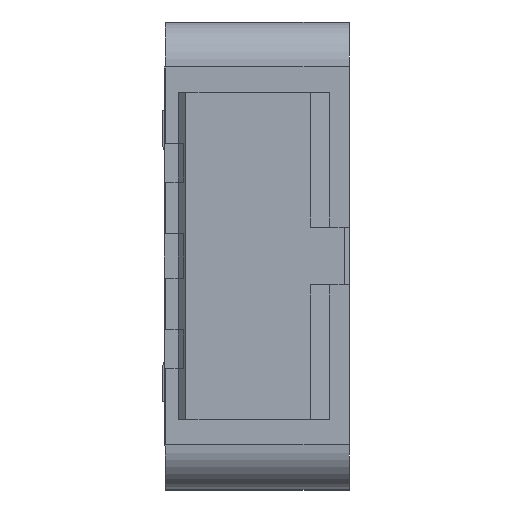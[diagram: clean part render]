
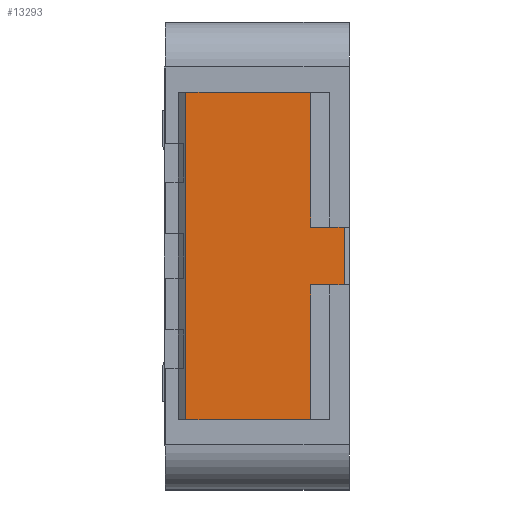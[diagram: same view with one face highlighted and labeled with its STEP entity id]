
A CAD part, left-side view. The second image highlights one B-rep face of the part: STEP entity #13293.
In plain terms, the highlighted planar face has unit normal (-1, 0, 0).
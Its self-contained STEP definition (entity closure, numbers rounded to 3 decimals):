
#187 = ORIENTED_EDGE ( 'NONE', *, *, #6422, .T. ) ;
#260 = CARTESIAN_POINT ( 'NONE',  ( -1.825, 0.09, 1.275 ) ) ;
#487 = PLANE ( 'NONE',  #15786 ) ;
#711 = ORIENTED_EDGE ( 'NONE', *, *, #30231, .F. ) ;
#1041 = EDGE_CURVE ( 'NONE', #12441, #22834, #14757, .T. ) ;
#1226 = VECTOR ( 'NONE', #26660, 1000. ) ;
#1441 = CARTESIAN_POINT ( 'NONE',  ( -1.825, 0.09, 1.275 ) ) ;
#1601 = DIRECTION ( 'NONE',  ( 0., -1., 0. ) ) ;
#1807 = CARTESIAN_POINT ( 'NONE',  ( -1.825, 0.2, 0.225 ) ) ;
#2979 = EDGE_CURVE ( 'NONE', #9953, #20934, #8069, .T. ) ;
#3018 = ORIENTED_EDGE ( 'NONE', *, *, #38116, .T. ) ;
#5444 = VECTOR ( 'NONE', #24380, 1000. ) ;
#5778 = DIRECTION ( 'NONE',  ( 0., -1., 0. ) ) ;
#5787 = CARTESIAN_POINT ( 'NONE',  ( -1.825, 0.35, 0.225 ) ) ;
#5827 = VECTOR ( 'NONE', #15180, 1000. ) ;
#6091 = CARTESIAN_POINT ( 'NONE',  ( -1.825, 0.09, 0.225 ) ) ;
#6320 = DIRECTION ( 'NONE',  ( 1., 0., 0. ) ) ;
#6422 = EDGE_CURVE ( 'NONE', #36009, #20803, #35440, .T. ) ;
#7838 = LINE ( 'NONE', #1807, #11866 ) ;
#8069 = LINE ( 'NONE', #1441, #14295 ) ;
#9953 = VERTEX_POINT ( 'NONE', #6091 ) ;
#10141 = LINE ( 'NONE', #16322, #33883 ) ;
#11866 = VECTOR ( 'NONE', #1601, 1000. ) ;
#12101 = LINE ( 'NONE', #30640, #5444 ) ;
#12441 = VERTEX_POINT ( 'NONE', #5787 ) ;
#12741 = DIRECTION ( 'NONE',  ( 0., 0., -1. ) ) ;
#13293 = ADVANCED_FACE ( 'NONE', ( #18755 ), #487, .F. ) ;
#13724 = ORIENTED_EDGE ( 'NONE', *, *, #39617, .T. ) ;
#14295 = VECTOR ( 'NONE', #26198, 1000. ) ;
#14757 = LINE ( 'NONE', #30723, #5827 ) ;
#15180 = DIRECTION ( 'NONE',  ( 0., 0., 1. ) ) ;
#15786 = AXIS2_PLACEMENT_3D ( 'NONE', #260, #6320, #12741 ) ;
#16322 = CARTESIAN_POINT ( 'NONE',  ( -1.825, 0.2, -0.225 ) ) ;
#17382 = CARTESIAN_POINT ( 'NONE',  ( -1.825, 1.32, 1.275 ) ) ;
#17727 = VECTOR ( 'NONE', #5778, 1000. ) ;
#18755 = FACE_OUTER_BOUND ( 'NONE', #23878, .T. ) ;
#19743 = CARTESIAN_POINT ( 'NONE',  ( -1.825, 0.09, -1.275 ) ) ;
#20803 = VERTEX_POINT ( 'NONE', #29831 ) ;
#20934 = VERTEX_POINT ( 'NONE', #21987 ) ;
#21987 = CARTESIAN_POINT ( 'NONE',  ( -1.825, 0.09, -0.225 ) ) ;
#22834 = VERTEX_POINT ( 'NONE', #26509 ) ;
#23878 = EDGE_LOOP ( 'NONE', ( #187, #32354, #13724, #32752, #711, #32550, #36257, #3018 ) ) ;
#24380 = DIRECTION ( 'NONE',  ( 0., 0., 1. ) ) ;
#25058 = EDGE_CURVE ( 'NONE', #31350, #22834, #27435, .T. ) ;
#25738 = CARTESIAN_POINT ( 'NONE',  ( -1.825, 0.35, -0.225 ) ) ;
#26198 = DIRECTION ( 'NONE',  ( 0., 0., -1. ) ) ;
#26509 = CARTESIAN_POINT ( 'NONE',  ( -1.825, 0.35, 1.275 ) ) ;
#26660 = DIRECTION ( 'NONE',  ( 0., 0., -1. ) ) ;
#27435 = LINE ( 'NONE', #29832, #35040 ) ;
#28646 = DIRECTION ( 'NONE',  ( 0., -1., 0. ) ) ;
#29831 = CARTESIAN_POINT ( 'NONE',  ( -1.825, 0.35, -1.275 ) ) ;
#29832 = CARTESIAN_POINT ( 'NONE',  ( -1.825, 0.09, 1.275 ) ) ;
#29918 = EDGE_CURVE ( 'NONE', #20803, #34498, #12101, .T. ) ;
#30109 = LINE ( 'NONE', #17382, #1226 ) ;
#30231 = EDGE_CURVE ( 'NONE', #12441, #9953, #7838, .T. ) ;
#30640 = CARTESIAN_POINT ( 'NONE',  ( -1.825, 0.35, -0.225 ) ) ;
#30723 = CARTESIAN_POINT ( 'NONE',  ( -1.825, 0.35, 1.275 ) ) ;
#31094 = CARTESIAN_POINT ( 'NONE',  ( -1.825, 1.32, 1.275 ) ) ;
#31350 = VERTEX_POINT ( 'NONE', #31094 ) ;
#32354 = ORIENTED_EDGE ( 'NONE', *, *, #29918, .T. ) ;
#32550 = ORIENTED_EDGE ( 'NONE', *, *, #1041, .T. ) ;
#32752 = ORIENTED_EDGE ( 'NONE', *, *, #2979, .F. ) ;
#33883 = VECTOR ( 'NONE', #28646, 1000. ) ;
#34498 = VERTEX_POINT ( 'NONE', #25738 ) ;
#35040 = VECTOR ( 'NONE', #36087, 1000. ) ;
#35440 = LINE ( 'NONE', #19743, #17727 ) ;
#36009 = VERTEX_POINT ( 'NONE', #38841 ) ;
#36087 = DIRECTION ( 'NONE',  ( 0., -1., 0. ) ) ;
#36257 = ORIENTED_EDGE ( 'NONE', *, *, #25058, .F. ) ;
#38116 = EDGE_CURVE ( 'NONE', #31350, #36009, #30109, .T. ) ;
#38841 = CARTESIAN_POINT ( 'NONE',  ( -1.825, 1.32, -1.275 ) ) ;
#39617 = EDGE_CURVE ( 'NONE', #34498, #20934, #10141, .T. ) ;
